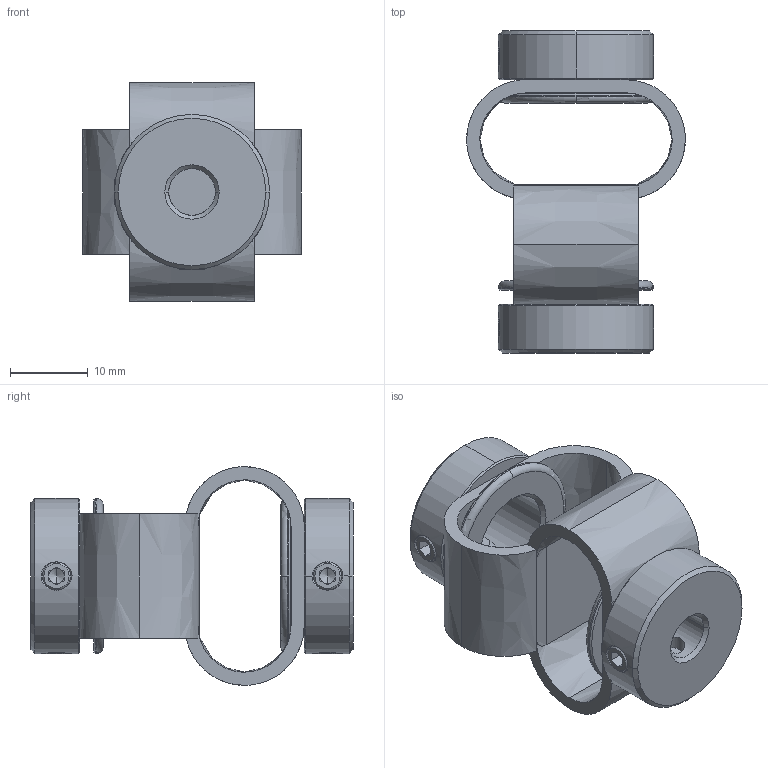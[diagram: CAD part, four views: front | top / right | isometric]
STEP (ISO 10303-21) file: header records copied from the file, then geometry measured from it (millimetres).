
FILE_DESCRIPTION (( 'STEP AP203' ), '1' );
FILE_NAME ('LS-D-D27L40-6-11.STEP', '2021-10-28T06:31:36', ( '' ), ( '' ), 'SwSTEP 2.0', 'SolidWorks 2018', '' );
FILE_SCHEMA (( 'CONFIG_CONTROL_DESIGN' ));
Length unit declared in the file: millimetre
Products named in the file (1): LS-D-D27L40-6-11
Bounding box: 28.2 x 41.54 x 28.2 mm (x, y, z)
Volume: 6731.1 mm3; surface area: 6698.3 mm2
Topology: 1 solids, 1 shells, 214 faces, 544 edges, 336 vertices
Faces by surface type: plane 86, cone 74, cylinder 34, bspline 16, torus 4
Entity records: 8391 total; most frequent: CARTESIAN_POINT 3327, ORIENTED_EDGE 1072, DIRECTION 990, EDGE_CURVE 536, AXIS2_PLACEMENT_3D 389, VERTEX_POINT 336, EDGE_LOOP 242, ADVANCED_FACE 214
